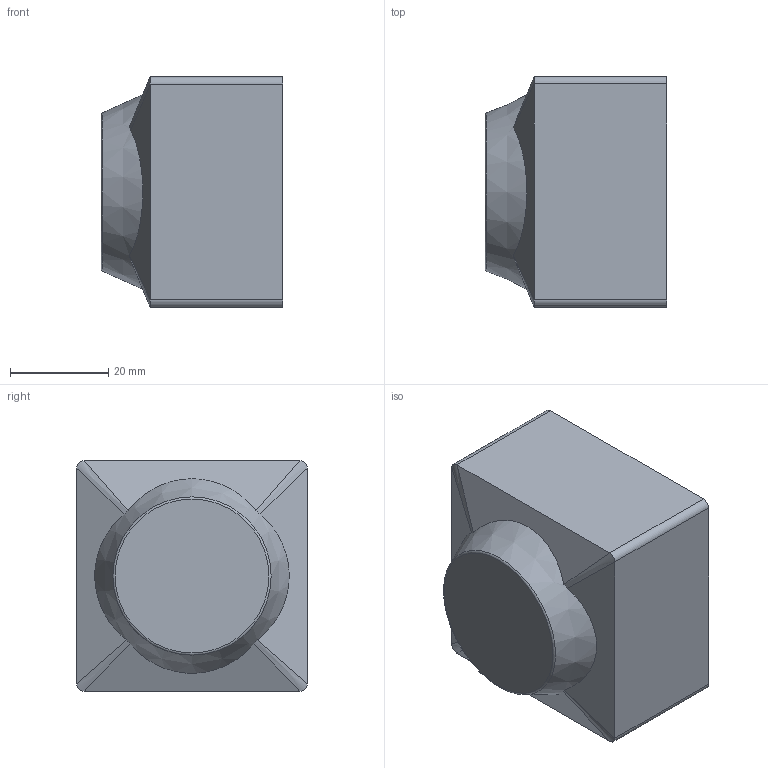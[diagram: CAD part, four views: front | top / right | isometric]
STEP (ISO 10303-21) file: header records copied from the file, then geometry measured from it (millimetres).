
FILE_DESCRIPTION(/* description */ (''),/* implementation_level */ '2;1');
FILE_NAME(/* name */ 'C:\Users\user\Desktop\사각고무캡\PR14-4040\\X2\B3C4BA74\X0\\DR_PR14-4040.stp',/* time_stamp */ '2022-12-14T16:15:14+09:00',/* author */ ('user'),/* organization */ (''),/* preprocessor_version */ 'ST-DEVELOPER v15.6',/* originating_system */ 'Autodesk Inventor 2015',/* authorisation */ '');
FILE_SCHEMA (('AUTOMOTIVE_DESIGN { 1 0 10303 214 3 1 1 }'));
Length unit declared in the file: millimetre
Products named in the file (1): DR_PR14-4040
Bounding box: 37 x 47 x 47 mm (x, y, z)
Volume: 30241.2 mm3; surface area: 14247.5 mm2
Topology: 1 solids, 1 shells, 25 faces, 57 edges, 35 vertices
Faces by surface type: plane 15, bspline 4, cylinder 4, torus 1, cone 1
Entity records: 790 total; most frequent: CARTESIAN_POINT 226, ORIENTED_EDGE 108, DIRECTION 108, EDGE_CURVE 54, LINE 36, VECTOR 36, AXIS2_PLACEMENT_3D 36, VERTEX_POINT 34
